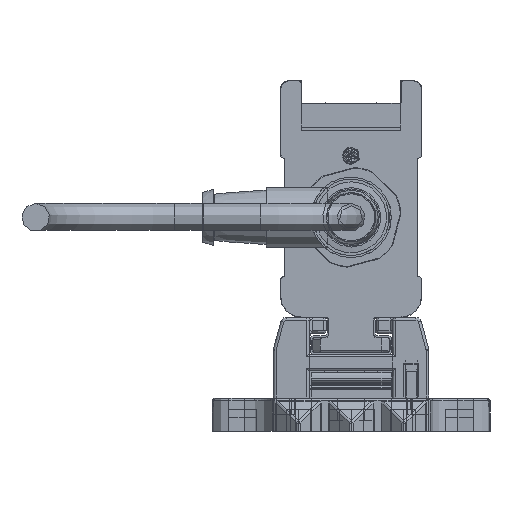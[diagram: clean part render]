
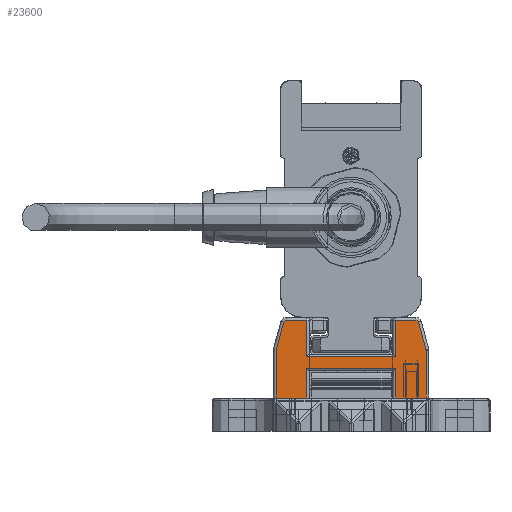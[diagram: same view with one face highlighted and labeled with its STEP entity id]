
A CAD part, left-side view. The second image highlights one B-rep face of the part: STEP entity #23600.
In plain terms, the highlighted planar face has unit normal (-1, 0, 0).
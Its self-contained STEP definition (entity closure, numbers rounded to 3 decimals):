
#23600=ADVANCED_FACE('', (#23610), #23620, .T.);
#189050=AXIS2_PLACEMENT_3D('Ax2Pl3d', #189060, #189070, #189080);
#189290=AXIS2_PLACEMENT_3D('Ax2Pl3d', #189300, #189310, #189320);
#194170=AXIS2_PLACEMENT_3D('Ax2Pl3d', #194180, #194190, #194200);
#199250=AXIS2_PLACEMENT_3D('Ax2Pl3d', #199260, #199270, #199280);
#208930=AXIS2_PLACEMENT_3D('Ax2Pl3d', #208940, #208950, #208960);
#844600=CARTESIAN_POINT('', (-747.669,-6326.345,
331.37));
#189060=CARTESIAN_POINT('HicPkt', (-747.669,-6325.379,
331.111));
#844610=CARTESIAN_POINT('', (-747.669,-6326.379,331.111)
);
#844620=CARTESIAN_POINT('', (-747.669,-6325.037,
336.255));
#844640=CARTESIAN_POINT('', (-747.669,-6325.037,
336.255));
#844670=CARTESIAN_POINT('', (-747.669,-6324.554,
336.625));
#189300=CARTESIAN_POINT('HicPkt', (-747.669,-6324.554,
336.125));
#844890=CARTESIAN_POINT('', (-747.669,-6326.379,322.625)
);
#844900=CARTESIAN_POINT('', (-747.669,-6320.881,322.625)
);
#844910=CARTESIAN_POINT('', (-747.669,-6320.881,322.625)
);
#844990=CARTESIAN_POINT('', (-747.669,-6304.881,322.625)
);
#845000=CARTESIAN_POINT('', (-747.669,-6299.383,322.625)
);
#845010=CARTESIAN_POINT('', (-747.669,-6299.383,322.625)
);
#194180=CARTESIAN_POINT('HicPkt', (-747.669,-6301.209,
336.125));
#847480=CARTESIAN_POINT('', (-747.669,-6300.726,
336.255));
#847490=CARTESIAN_POINT('', (-747.669,-6301.209,
336.625));
#847500=CARTESIAN_POINT('', (-747.669,-6320.881,
330.025));
#847510=CARTESIAN_POINT('', (-747.669,-6304.881,
330.025));
#847520=CARTESIAN_POINT('', (-747.669,-6320.881,
330.025));
#847680=CARTESIAN_POINT('', (-747.669,-6320.881,
328.005));
#847690=CARTESIAN_POINT('', (-747.669,-6304.881,
328.005));
#847700=CARTESIAN_POINT('', (-747.669,-6304.881,
328.005));
#847710=CARTESIAN_POINT('', (-747.669,-6320.881,
328.005));
#847730=CARTESIAN_POINT('', (-747.669,-6304.881,322.625)
);
#847740=CARTESIAN_POINT('', (-747.669,-6304.881,
330.025));
#847750=CARTESIAN_POINT('', (-747.669,-6304.881,
336.625));
#848600=CARTESIAN_POINT('', (-747.669,-6304.881,
336.625));
#848610=CARTESIAN_POINT('', (-747.669,-6300.726,
336.255));
#848620=CARTESIAN_POINT('', (-747.669,-6299.417,
331.37));
#848810=CARTESIAN_POINT('', (-747.669,-6299.383,331.111)
);
#848820=CARTESIAN_POINT('', (-747.669,-6299.383,331.111)
);
#199260=CARTESIAN_POINT('HicPkt', (-747.669,-6300.383,
331.111));
#849630=CARTESIAN_POINT('', (-747.669,-6326.379,331.111)
);
#208940=CARTESIAN_POINT('HicPkt', (-747.669,-6324.554,
336.625));
#851430=CARTESIAN_POINT('', (-747.669,-6320.881,
336.625));
#851440=CARTESIAN_POINT('', (-747.669,-6320.881,
336.625));
#851450=CARTESIAN_POINT('', (-747.669,-6320.881,
336.625));
#981330=CIRCLE('Circle', #189050, 1.);
#981370=CIRCLE('Circle', #189290, 0.5);
#981950=CIRCLE('Circle', #194170, 0.5);
#982480=CIRCLE('Circle', #199250, 1.);
#189070=DIRECTION('Axis', (-1.,0.,
0.));
#189080=DIRECTION('RefDirection', (0.,
0.,-1.));
#1367870=DIRECTION('', (0.,0.259,
0.966));
#189310=DIRECTION('Axis', (-1.,0.,
0.));
#189320=DIRECTION('RefDirection', (0.,
0.,-1.));
#1367980=DIRECTION('', (0.,1.,0.));
#1368020=DIRECTION('', (0.,1.,0.));
#194190=DIRECTION('Axis', (1.,0.,
0.));
#194200=DIRECTION('RefDirection', (0.,
0.,-1.));
#1369210=DIRECTION('', (0.,-1.,0.));
#1369310=DIRECTION('', (0.,1.,0.));
#1369320=DIRECTION('', (0.,0.,1.));
#1369340=DIRECTION('', (0.,0.,-1.));
#1369350=DIRECTION('', (0.,0.,-1.));
#1369780=DIRECTION('', (0.,-1.,0.))
;
#1369790=DIRECTION('', (0.,-0.259,0.966));
#1369880=DIRECTION('', (0.,0.,1.));
#199270=DIRECTION('Axis', (1.,0.,
0.));
#199280=DIRECTION('RefDirection', (0.,
0.,-1.));
#1370250=DIRECTION('', (0.,0.,1.));
#208950=DIRECTION('Axis', (-1.,0.,
0.));
#208960=DIRECTION('RefDirection', (0.,
0.,-1.));
#1371090=DIRECTION('', (0.,1.,0.));
#1371100=DIRECTION('', (0.,0.,1.));
#1456860=EDGE_CURVE('', #1456870, #1456850, #981330, .T.);
#1456920=EDGE_CURVE('', #1456850, #1456900, #1456930, .T.);
#1456990=EDGE_CURVE('', #1456900, #1456980, #981370, .T.);
#1457440=EDGE_CURVE('', #1457430, #1457450, #1457460, .T.);
#1457600=EDGE_CURVE('', #1457590, #1457610, #1457620, .T.);
#1461960=EDGE_CURVE('', #1461970, #1461980, #981950, .T.);
#1462010=EDGE_CURVE('', #1462020, #1462030, #1462040, .T.);
#1462380=EDGE_CURVE('', #1462360, #1462390, #1462400, .T.);
#1462430=EDGE_CURVE('', #1457450, #1462360, #1462440, .T.);
#1462470=EDGE_CURVE('', #1462390, #1457590, #1462480, .T.);
#1462490=EDGE_CURVE('', #1462500, #1462020, #1462510, .T.);
#1464330=EDGE_CURVE('', #1461980, #1462500, #1464340, .T.);
#1464400=EDGE_CURVE('', #1464410, #1461970, #1464420, .T.);
#1464840=EDGE_CURVE('', #1457610, #1464850, #1464860, .T.);
#1464880=EDGE_CURVE('', #1464850, #1464410, #982480, .T.);
#1466590=EDGE_CURVE('', #1457430, #1456870, #1466600, .T.);
#1470400=EDGE_CURVE('', #1456980, #1470410, #1470420, .T.);
#1470430=EDGE_CURVE('', #1462030, #1470410, #1470440, .T.);
#1750440=EDGE_LOOP('Edge_loop', (#1750450,#1750460,#1750470,#1750480,
#1750490,#1750500,#1750510,#1750520,#1750530,#1750540,#1750550,
#1750560,#1750570,#1750580,#1750590,#1750600,#1750610,#1750620));
#23610=FACE_OUTER_BOUND('Face_outer_bound', #1750440, .T.);
#1456930=LINE('Line', #844640, #2017940);
#1457460=LINE('Line', #844900, #2018050);
#1457620=LINE('Line', #845000, #2018090);
#1462040=LINE('Line', #847500, #2019280);
#1462400=LINE('Line', #847690, #2019380);
#1462440=LINE('Line', #847710, #2019390);
#1462480=LINE('Line', #847730, #2019410);
#1462510=LINE('Line', #847740, #2019420);
#1464340=LINE('Line', #848600, #2019850);
#1464420=LINE('Line', #848610, #2019860);
#1464860=LINE('Line', #848810, #2019950);
#1466600=LINE('Line', #849630, #2020320);
#1470420=LINE('Line', #851430, #2021160);
#1470440=LINE('Line', #851450, #2021170);
#1750450=ORIENTED_EDGE('', *, *, #1470400, .T.);
#1750460=ORIENTED_EDGE('', *, *, #1470430, .F.);
#1750470=ORIENTED_EDGE('', *, *, #1462010, .F.);
#1750480=ORIENTED_EDGE('', *, *, #1462490, .F.);
#1750490=ORIENTED_EDGE('', *, *, #1464330, .F.);
#1750500=ORIENTED_EDGE('', *, *, #1461960, .F.);
#1750510=ORIENTED_EDGE('', *, *, #1464400, .F.);
#1750520=ORIENTED_EDGE('', *, *, #1464880, .F.);
#1750530=ORIENTED_EDGE('', *, *, #1464840, .F.);
#1750540=ORIENTED_EDGE('', *, *, #1457600, .F.);
#1750550=ORIENTED_EDGE('', *, *, #1462470, .F.);
#1750560=ORIENTED_EDGE('', *, *, #1462380, .F.);
#1750570=ORIENTED_EDGE('', *, *, #1462430, .F.);
#1750580=ORIENTED_EDGE('', *, *, #1457440, .F.);
#1750590=ORIENTED_EDGE('', *, *, #1466590, .T.);
#1750600=ORIENTED_EDGE('', *, *, #1456860, .T.);
#1750610=ORIENTED_EDGE('', *, *, #1456920, .T.);
#1750620=ORIENTED_EDGE('', *, *, #1456990, .T.);
#23620=PLANE('Plane', #208930);
#2017940=VECTOR('', #1367870, 5.057);
#2018050=VECTOR('', #1367980, 5.498);
#2018090=VECTOR('', #1368020, 5.498);
#2019280=VECTOR('', #1369210, 16.);
#2019380=VECTOR('', #1369310, 16.);
#2019390=VECTOR('', #1369320, 5.38);
#2019410=VECTOR('', #1369340, 5.38);
#2019420=VECTOR('', #1369350, 6.6);
#2019850=VECTOR('', #1369780, 3.672);
#2019860=VECTOR('', #1369790, 5.057);
#2019950=VECTOR('', #1369880, 8.486);
#2020320=VECTOR('', #1370250, 8.486);
#2021160=VECTOR('', #1371090, 3.672);
#2021170=VECTOR('', #1371100, 6.6);
#1456850=VERTEX_POINT('', #844600);
#1456870=VERTEX_POINT('', #844610);
#1456900=VERTEX_POINT('', #844620);
#1456980=VERTEX_POINT('', #844670);
#1457430=VERTEX_POINT('', #844890);
#1457450=VERTEX_POINT('', #844910);
#1457590=VERTEX_POINT('', #844990);
#1457610=VERTEX_POINT('', #845010);
#1461970=VERTEX_POINT('', #847480);
#1461980=VERTEX_POINT('', #847490);
#1462020=VERTEX_POINT('', #847510);
#1462030=VERTEX_POINT('', #847520);
#1462360=VERTEX_POINT('', #847680);
#1462390=VERTEX_POINT('', #847700);
#1462500=VERTEX_POINT('', #847750);
#1464410=VERTEX_POINT('', #848620);
#1464850=VERTEX_POINT('', #848820);
#1470410=VERTEX_POINT('', #851440);
